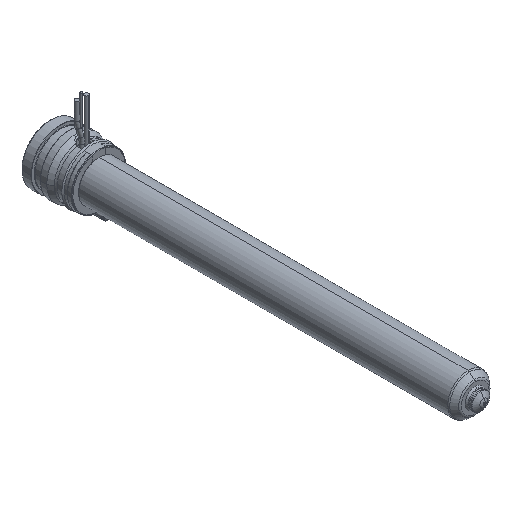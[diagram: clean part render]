
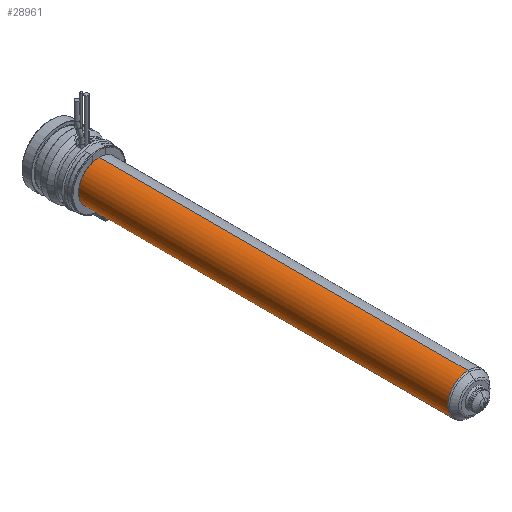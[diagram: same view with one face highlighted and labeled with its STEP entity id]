
A CAD part, isometric view. The second image highlights one B-rep face of the part: STEP entity #28961.
In plain terms, the highlighted cylindrical face has radius 9 mm (diameter 18 mm), a partial arc.
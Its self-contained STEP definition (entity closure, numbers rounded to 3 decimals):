
#28350=CARTESIAN_POINT('',(0.,-185.836,0.));
#28351=DIRECTION('',(0.,-1.,0.));
#28352=DIRECTION('',(0.,0.,1.));
#28353=AXIS2_PLACEMENT_3D('',#28350,#28351,#28352);
#28358=CARTESIAN_POINT('',(0.,-22.,0.));
#28359=DIRECTION('',(0.,-1.,0.));
#28360=DIRECTION('',(0.,0.,1.));
#28361=AXIS2_PLACEMENT_3D('',#28358,#28359,#28360);
#28366=DIRECTION('',(0.,-1.,0.));
#28367=VECTOR('',#28366,163.836);
#28368=CARTESIAN_POINT('',(0.,-22.,9.));
#28369=LINE('',#28368,#28367);
#28381=DIRECTION('',(0.,-1.,0.));
#28382=VECTOR('',#28381,163.836);
#28383=CARTESIAN_POINT('',(0.,-22.,-9.));
#28384=LINE('',#28383,#28382);
#28578=CARTESIAN_POINT('',(0.,-22.,9.));
#28579=CARTESIAN_POINT('',(0.,-185.836,9.));
#28580=VERTEX_POINT('',#28578);
#28581=VERTEX_POINT('',#28579);
#28604=CARTESIAN_POINT('',(0.,-22.,-9.));
#28605=CARTESIAN_POINT('',(0.,-185.836,-9.));
#28606=VERTEX_POINT('',#28604);
#28607=VERTEX_POINT('',#28605);
#28947=CARTESIAN_POINT('',(0.,-9.2,0.));
#28948=DIRECTION('',(0.,-1.,0.));
#28949=DIRECTION('',(0.,0.,1.));
#28950=AXIS2_PLACEMENT_3D('',#28947,#28948,#28949);
#28951=CYLINDRICAL_SURFACE('',#28950,9.);
#28953=ORIENTED_EDGE('',*,*,#28952,.T.);
#28954=ORIENTED_EDGE('',*,*,#28942,.T.);
#28956=ORIENTED_EDGE('',*,*,#28955,.F.);
#28958=ORIENTED_EDGE('',*,*,#28957,.F.);
#28959=EDGE_LOOP('',(#28953,#28954,#28956,#28958));
#28960=FACE_OUTER_BOUND('',#28959,.F.);
#28961=ADVANCED_FACE('',(#28960),#28951,.T.);
#28354=CIRCLE('',#28353,9.);
#28362=CIRCLE('',#28361,9.);
#28942=EDGE_CURVE('',#28581,#28607,#28354,.T.);
#28952=EDGE_CURVE('',#28580,#28581,#28369,.T.);
#28955=EDGE_CURVE('',#28606,#28607,#28384,.T.);
#28957=EDGE_CURVE('',#28580,#28606,#28362,.T.);
